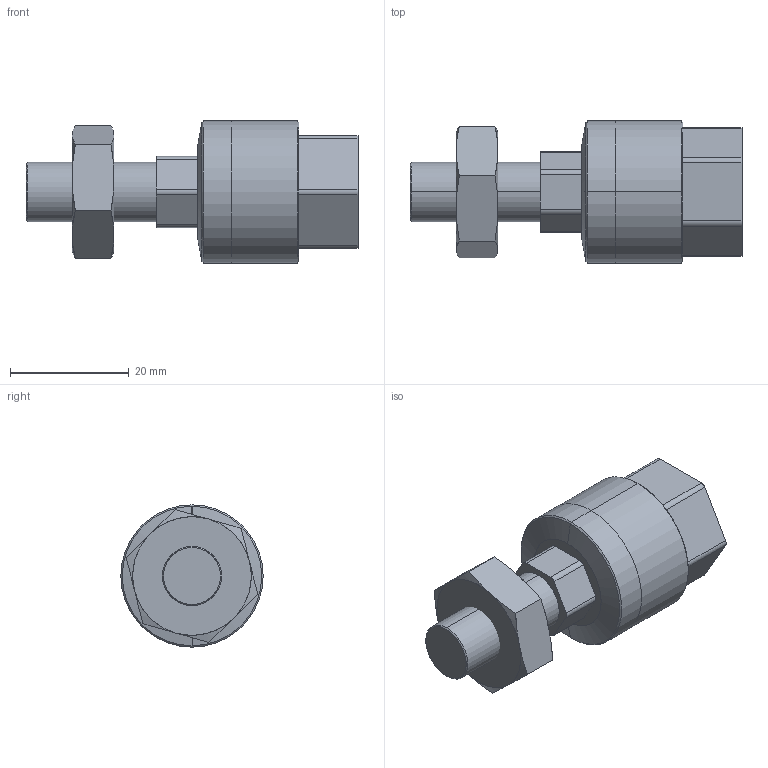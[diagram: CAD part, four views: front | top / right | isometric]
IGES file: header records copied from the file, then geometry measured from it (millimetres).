
Start section: SolidWorks IGES file using analytic representation for surfaces
Global section: file name: D:\MI\新增資料夾\FC\FCM10-1.25.IGS; native system: SolidWorks 2013; preprocessor: SolidWorks 2013; author: Sam Lin; date: 160323.114050; units: millimetre
Bounding box: 56 x 24 x 24 mm (x, y, z)
Surface area: 5373.8 mm2 (no closed solid volume)
Topology: 0 solids, 0 shells, 69 faces, 800 edges, 798 vertices
Faces by surface type: bspline 37, revolution 32
